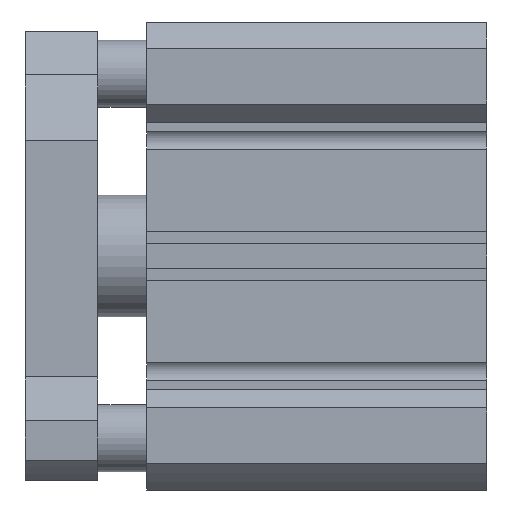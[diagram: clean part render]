
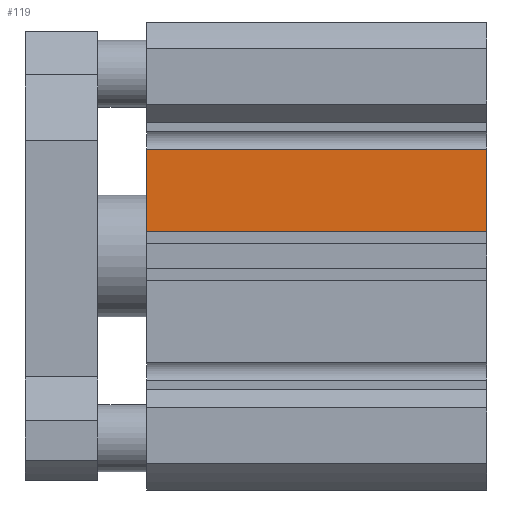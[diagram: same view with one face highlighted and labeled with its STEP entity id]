
A CAD part, front view. The second image highlights one B-rep face of the part: STEP entity #119.
In plain terms, the highlighted planar face has unit normal (0, -1, 0).
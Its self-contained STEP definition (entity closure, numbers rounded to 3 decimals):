
#119 = ADVANCED_FACE ( 'NONE', ( #222 ), #3103, .F. ) ;
#222 = FACE_OUTER_BOUND ( 'NONE', #2750, .T. ) ;
#885 = LINE ( 'NONE', #2000, #5222 ) ;
#1301 = DIRECTION ( 'NONE',  ( -1., 0., 0. ) ) ;
#1303 = EDGE_CURVE ( 'NONE', #5633, #5128, #5032, .T. ) ;
#1609 = VECTOR ( 'NONE', #4920, 1000. ) ;
#2000 = CARTESIAN_POINT ( 'NONE',  ( 56., -35.5, 4. ) ) ;
#2108 = DIRECTION ( 'NONE',  ( 0., 1., 0. ) ) ;
#2136 = VERTEX_POINT ( 'NONE', #2559 ) ;
#2225 = ORIENTED_EDGE ( 'NONE', *, *, #4201, .F. ) ;
#2231 = VERTEX_POINT ( 'NONE', #5579 ) ;
#2289 = DIRECTION ( 'NONE',  ( 0., 0., -1. ) ) ;
#2521 = CARTESIAN_POINT ( 'NONE',  ( 0., -35.5, 17.5 ) ) ;
#2559 = CARTESIAN_POINT ( 'NONE',  ( 0., -35.5, 17.5 ) ) ;
#2736 = CARTESIAN_POINT ( 'NONE',  ( 56., -35.5, 17.5 ) ) ;
#2750 = EDGE_LOOP ( 'NONE', ( #3891, #2225, #5324, #3274 ) ) ;
#3074 = CARTESIAN_POINT ( 'NONE',  ( 56., -35.5, 4. ) ) ;
#3103 = PLANE ( 'NONE',  #5846 ) ;
#3273 = CARTESIAN_POINT ( 'NONE',  ( 56., -35.5, 17.5 ) ) ;
#3274 = ORIENTED_EDGE ( 'NONE', *, *, #4523, .T. ) ;
#3891 = ORIENTED_EDGE ( 'NONE', *, *, #4751, .T. ) ;
#3988 = DIRECTION ( 'NONE',  ( 1., 0., 0. ) ) ;
#4201 = EDGE_CURVE ( 'NONE', #5128, #2231, #885, .T. ) ;
#4474 = VECTOR ( 'NONE', #1301, 1000. ) ;
#4489 = CARTESIAN_POINT ( 'NONE',  ( 56., -35.5, 17.5 ) ) ;
#4523 = EDGE_CURVE ( 'NONE', #5633, #2136, #6095, .T. ) ;
#4629 = CARTESIAN_POINT ( 'NONE',  ( 56., -35.5, 17.5 ) ) ;
#4751 = EDGE_CURVE ( 'NONE', #2136, #2231, #5349, .T. ) ;
#4832 = DIRECTION ( 'NONE',  ( -1., 0., 0. ) ) ;
#4920 = DIRECTION ( 'NONE',  ( 0., 0., -1. ) ) ;
#5032 = LINE ( 'NONE', #4629, #5109 ) ;
#5109 = VECTOR ( 'NONE', #2289, 1000. ) ;
#5128 = VERTEX_POINT ( 'NONE', #3074 ) ;
#5222 = VECTOR ( 'NONE', #4832, 1000. ) ;
#5324 = ORIENTED_EDGE ( 'NONE', *, *, #1303, .F. ) ;
#5349 = LINE ( 'NONE', #2521, #1609 ) ;
#5579 = CARTESIAN_POINT ( 'NONE',  ( 0., -35.5, 4. ) ) ;
#5633 = VERTEX_POINT ( 'NONE', #2736 ) ;
#5846 = AXIS2_PLACEMENT_3D ( 'NONE', #4489, #2108, #3988 ) ;
#6095 = LINE ( 'NONE', #3273, #4474 ) ;
